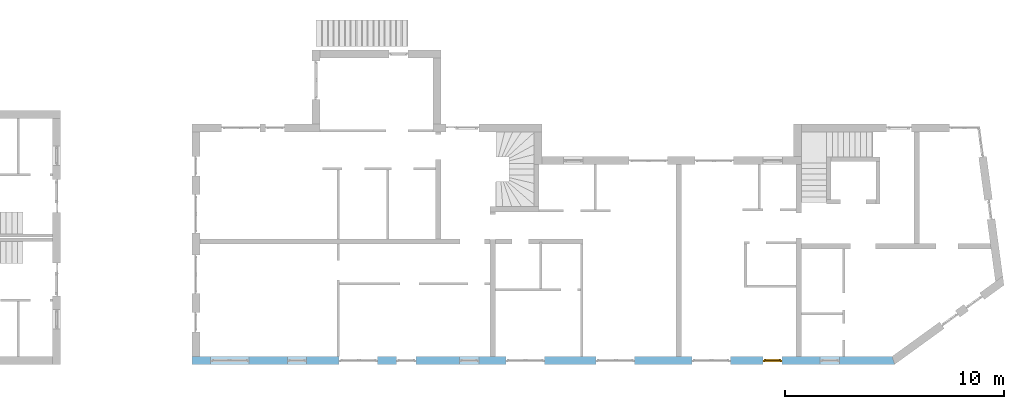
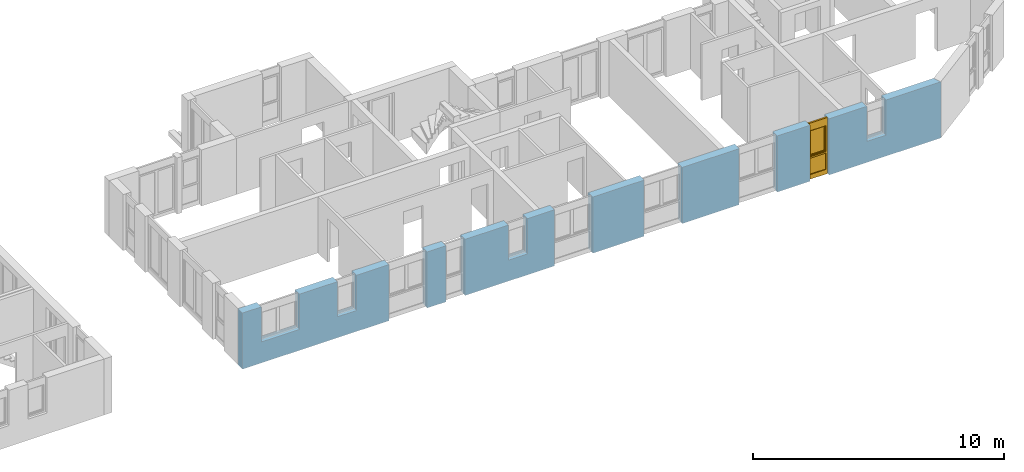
# One storey, part 23 of 41: 1 window, 10 openings, plus 1 element that does not belong to this part.
"""IFC2X3 building model written with IfcOpenShell, lengths in millimetres."""

from ifc_helpers import new_model, entity, si_unit, converted_unit, frame, frame_2d, origin, origin_with_axes, place, context, subcontext, project, spatial, polyline, rectangle, outline, extrude, faceted_brep, material, layer, layer_set, layer_usage, type_object, element, fill, save


model = new_model("IFC2X3")

# Units and contexts
model_context = context("Model", 3, precision=1e-05, world=origin())
body_context = subcontext(model_context, "Body", "Model", "MODEL_VIEW")
ifc_project = project(units=[si_unit("LENGTHUNIT", "METRE", prefix="MILLI"), converted_unit("PLANEANGLEUNIT", "DEGREE", entity("IfcPlaneAngleMeasure", 0.0174532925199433), si_unit("PLANEANGLEUNIT", "RADIAN"), dimensions=[0, 0, 0, 0, 0, 0, 0]), si_unit("AREAUNIT", "SQUARE_METRE"), si_unit("VOLUMEUNIT", "CUBIC_METRE")], contexts=[model_context])

# Building, storey
building_placement = place(None, origin())
building = spatial("IfcBuilding", under=ifc_project, at=building_placement, Name="Gebäude", CompositionType="ELEMENT")
storey_placement = place(building_placement, frame((0.0, 0.0, -200.0), z_axis=(0.0, 0.0, 1.0), x_axis=(1.0, 0.0, 0.0)))
storey = spatial("IfcBuildingStorey", under=building, at=storey_placement, Name="EG.- Grundriss", CompositionType="ELEMENT", Elevation=-200.0)

# Wall, openings, window
ifc_material_1 = material(Name="Poroton")
ifc_layer = layer(ifc_material_1, 365.0000000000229)
ifc_layer_set = layer_set([ifc_layer])
ifc_layer_usage = layer_usage(ifc_layer_set, "AXIS2", "POSITIVE", 0.0)
wall_placement = place(storey_placement, frame((148357.7928067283, 125274.8877324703, 0.0), z_axis=(0.0, 0.0, 1.0), x_axis=(1.0, -2.749268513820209e-11, 0.0)))
wall = element("IfcWallStandardCase", 1, at=wall_placement, inside=storey, material=ifc_layer_usage, Name="<Unnamed Element>", context=body_context, shape_type="SweptSolid", body=[
    extrude(outline(polyline([(0.0, 0.0), (32144.99999877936, 0.0), (32026.74038666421, 365.0000000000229), (-1.003483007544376e-08, 365.0), (0.0, 0.0)])), origin_with_axes(), (0.0, 0.0, 1.0), 2730.0),
])
opening_1_placement = place(wall_placement, frame((28740.29648749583, -1.103025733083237e-10, 1020.0), z_axis=(0.0, 1.0, 0.0), x_axis=(0.0, 0.0, 1.0)))
element("IfcOpeningElement", 2, at=opening_1_placement, cuts=wall, Name="Fensteröffnung", ObjectType="Opening", context=body_context, shape_type="SweptSolid", body=[
    extrude(rectangle(XDim=1710.0, YDim=885.0, at=frame_2d((855.0, 442.5), x_axis=(1.0, 0.0))), origin_with_axes(), (0.0, 0.0, 1.0), 365.0000000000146),
])
opening_2_placement = place(wall_placement, frame((26115.29648749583, -1.048456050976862e-10, 0.0), z_axis=(0.0, 1.0, 0.0), x_axis=(0.0, 0.0, 1.0)))
opening_2 = element("IfcOpeningElement", 3, at=opening_2_placement, cuts=wall, Name="Fensteröffnung", ObjectType="Opening", context=body_context, shape_type="SweptSolid", body=[
    extrude(rectangle(XDim=2730.0, YDim=885.0, at=frame_2d((1365.0, 442.5), x_axis=(1.0, 0.0))), origin_with_axes(), (0.0, 0.0, 1.0), 365.0000000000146),
])
opening_3_placement = place(wall_placement, frame((22865.29648749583, -7.937975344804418e-11, 0.0), z_axis=(0.0, 1.0, 0.0), x_axis=(0.0, 0.0, 1.0)))
element("IfcOpeningElement", 4, at=opening_3_placement, cuts=wall, Name="Fensteröffnung", ObjectType="Opening", context=body_context, shape_type="SweptSolid", body=[
    extrude(rectangle(XDim=2730.0, YDim=1760.0, at=frame_2d((1365.0, 880.0), x_axis=(1.0, 0.0))), origin_with_axes(), (0.0, 0.0, 1.0), 365.0000000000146),
])
opening_4_placement = place(wall_placement, frame((18490.51063065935, -4.984640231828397e-11, 0.0), z_axis=(0.0, 1.0, 0.0), x_axis=(0.0, 0.0, 1.0)))
element("IfcOpeningElement", 5, at=opening_4_placement, cuts=wall, Name="Fensteröffnung", ObjectType="Opening", context=body_context, shape_type="SweptSolid", body=[
    extrude(rectangle(XDim=2730.0, YDim=1760.0, at=frame_2d((1365.0, 880.0), x_axis=(1.0, 0.0))), origin_with_axes(), (0.0, 0.0, 1.0), 365.0000000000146),
])
opening_5_placement = place(wall_placement, frame((14365.26291871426, -7.302655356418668e-11, 0.0), z_axis=(0.0, 1.0, 0.0), x_axis=(0.0, 0.0, 1.0)))
element("IfcOpeningElement", 6, at=opening_5_placement, cuts=wall, Name="Fensteröffnung", ObjectType="Opening", context=body_context, shape_type="SweptSolid", body=[
    extrude(rectangle(XDim=2730.0, YDim=1760.0, at=frame_2d((1365.0, 880.0), x_axis=(1.0, 0.0))), origin_with_axes(), (0.0, 0.0, 1.0), 365.0000000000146),
])
opening_6_placement = place(wall_placement, frame((12240.0, -5.296897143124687e-11, 1020.0), z_axis=(0.0, 1.0, 0.0), x_axis=(0.0, 0.0, 1.0)))
element("IfcOpeningElement", 7, at=opening_6_placement, cuts=wall, Name="Fensteröffnung", ObjectType="Opening", context=body_context, shape_type="SweptSolid", body=[
    extrude(rectangle(XDim=1710.0, YDim=885.0, at=frame_2d((855.0, 442.5), x_axis=(1.0, 0.0))), origin_with_axes(), (0.0, 0.0, 1.0), 365.0000000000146),
])
opening_7_placement = place(wall_placement, frame((9365.0, -3.659806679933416e-11, 0.0), z_axis=(0.0, 1.0, 0.0), x_axis=(0.0, 0.0, 1.0)))
element("IfcOpeningElement", 8, at=opening_7_placement, cuts=wall, Name="Fensteröffnung", ObjectType="Opening", context=body_context, shape_type="SweptSolid", body=[
    extrude(rectangle(XDim=2730.0, YDim=885.0, at=frame_2d((1365.0, 442.5), x_axis=(1.0, 0.0))), origin_with_axes(), (0.0, 0.0, 1.0), 365.0000000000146),
])
opening_8_placement = place(wall_placement, frame((6740.0, -3.114109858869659e-11, 0.0), z_axis=(0.0, 1.0, 0.0), x_axis=(0.0, 0.0, 1.0)))
element("IfcOpeningElement", 9, at=opening_8_placement, cuts=wall, Name="Fensteröffnung", ObjectType="Opening", context=body_context, shape_type="SweptSolid", body=[
    extrude(rectangle(XDim=2730.0, YDim=1760.0, at=frame_2d((1365.0, 880.0), x_axis=(1.0, 0.0))), origin_with_axes(), (0.0, 0.0, 1.0), 365.0000000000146),
])
opening_9_placement = place(wall_placement, frame((4365.0, -7.494236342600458e-12, 1020.0), z_axis=(0.0, 1.0, 0.0), x_axis=(0.0, 0.0, 1.0)))
element("IfcOpeningElement", 10, at=opening_9_placement, cuts=wall, Name="Fensteröffnung", ObjectType="Opening", context=body_context, shape_type="SweptSolid", body=[
    extrude(rectangle(XDim=1710.0, YDim=885.0, at=frame_2d((855.0, 442.5), x_axis=(1.0, 0.0))), origin_with_axes(), (0.0, 0.0, 1.0), 365.0000000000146),
])
opening_10_placement = place(wall_placement, frame((865.0, -2.182787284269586e-13, 1020.0), z_axis=(0.0, 1.0, 0.0), x_axis=(0.0, 0.0, 1.0)))
element("IfcOpeningElement", 11, at=opening_10_placement, cuts=wall, Name="Fensteröffnung", ObjectType="Opening", context=body_context, shape_type="SweptSolid", body=[
    extrude(rectangle(XDim=1710.0, YDim=1760.0, at=frame_2d((854.9999999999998, 880.0), x_axis=(1.0, 0.0))), origin_with_axes(), (0.0, 0.0, 1.0), 365.0000000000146),
])
ifc_material_2 = material()
window_style = type_object("IfcWindowStyle", Name="Fenster", ConstructionType="NOTDEFINED", OperationType="USERDEFINED", ParameterTakesPrecedence=False, Sizeable=False)
window_placement = place(opening_2_placement, frame((0.0, 0.0, 0.0), z_axis=(1.0, 0.0, 0.0), x_axis=(0.0, 1.0, 0.0)))
window = element("IfcWindow", 12, at=window_placement, inside=storey, type_object=window_style, material=ifc_material_2, Name="Fenster", OverallHeight=2730.0, OverallWidth=885.0, context=body_context, shape_type="Brep", body=[
    faceted_brep([(-1.221113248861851e-08, 200.0000000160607, 2730.0), (-1.221113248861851e-08, 200.0000000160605, -2.449293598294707e-15), (69.99999998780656, 200.000000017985, -2.449293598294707e-15), (69.99999998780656, 200.0000000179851, 2730.0), (-1.001171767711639e-08, 119.9999999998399, 2.449293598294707e-15), (-1.00117176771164e-08, 119.9999999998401, 2730.0), (69.99999999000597, 120.0000000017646, 2730.0), (69.99999999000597, 120.0000000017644, 2.449293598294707e-15), (-1.221113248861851e-08, 200.0000000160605, -2.449293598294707e-15), (-1.221113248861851e-08, 200.0000000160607, 2730.0), (-1.00117176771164e-08, 119.9999999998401, 2730.0), (-1.001171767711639e-08, 119.9999999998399, 2.449293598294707e-15), (69.99999998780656, 200.000000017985, -2.449293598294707e-15), (-1.221113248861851e-08, 200.0000000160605, -2.449293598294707e-15), (-1.001171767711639e-08, 119.9999999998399, 2.449293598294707e-15), (69.99999999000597, 120.0000000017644, 2.449293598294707e-15), (69.99999998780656, 200.0000000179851, 2730.0), (69.99999998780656, 200.000000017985, -2.449293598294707e-15), (69.99999999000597, 120.0000000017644, 2.449293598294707e-15), (69.99999999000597, 120.0000000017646, 2730.0), (-1.221113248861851e-08, 200.0000000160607, 2730.0), (69.99999998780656, 200.0000000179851, 2730.0), (69.99999999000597, 120.0000000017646, 2730.0), (-1.00117176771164e-08, 119.9999999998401, 2730.0)], [[[0, 1, 2, 3]], [[4, 5, 6, 7]], [[8, 9, 10, 11]], [[12, 13, 14, 15]], [[16, 17, 18, 19]], [[20, 21, 22, 23]]], orient=[[False], [False], [False], [False], [False], [False]]),
    faceted_brep([(814.9999999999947, 200.0000000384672, 2730.0), (814.9999999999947, 200.000000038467, -2.449293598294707e-15), (885.0000000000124, 200.0000000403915, -2.449293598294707e-15), (885.0000000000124, 200.0000000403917, 2730.0), (815.000000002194, 120.0000000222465, 2.449293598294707e-15), (815.000000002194, 120.0000000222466, 2730.0), (885.0000000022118, 120.0000000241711, 2730.0), (885.0000000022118, 120.000000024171, 2.449293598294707e-15), (814.9999999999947, 200.000000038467, -2.449293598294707e-15), (814.9999999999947, 200.0000000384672, 2730.0), (815.000000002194, 120.0000000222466, 2730.0), (815.000000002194, 120.0000000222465, 2.449293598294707e-15), (885.0000000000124, 200.0000000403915, -2.449293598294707e-15), (814.9999999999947, 200.000000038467, -2.449293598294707e-15), (815.000000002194, 120.0000000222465, 2.449293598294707e-15), (885.0000000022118, 120.000000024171, 2.449293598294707e-15), (885.0000000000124, 200.0000000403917, 2730.0), (885.0000000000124, 200.0000000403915, -2.449293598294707e-15), (885.0000000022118, 120.000000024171, 2.449293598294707e-15), (885.0000000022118, 120.0000000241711, 2730.0), (814.9999999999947, 200.0000000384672, 2730.0), (885.0000000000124, 200.0000000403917, 2730.0), (885.0000000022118, 120.0000000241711, 2730.0), (815.000000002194, 120.0000000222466, 2730.0)], [[[0, 1, 2, 3]], [[4, 5, 6, 7]], [[8, 9, 10, 11]], [[12, 13, 14, 15]], [[16, 17, 18, 19]], [[20, 21, 22, 23]]], orient=[[False], [False], [False], [False], [False], [False]]),
    faceted_brep([(69.99999998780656, 200.000000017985, 220.0), (69.99999998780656, 200.000000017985, -2.449293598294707e-15), (814.9999999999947, 200.000000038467, -2.449293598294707e-15), (814.9999999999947, 200.000000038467, 220.0), (69.99999999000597, 120.0000000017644, 2.449293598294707e-15), (69.99999999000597, 120.0000000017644, 220.0), (815.000000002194, 120.0000000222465, 220.0), (815.000000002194, 120.0000000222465, 2.449293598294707e-15), (69.99999998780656, 200.000000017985, -2.449293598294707e-15), (69.99999998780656, 200.000000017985, 220.0), (69.99999999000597, 120.0000000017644, 220.0), (69.99999999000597, 120.0000000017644, 2.449293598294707e-15), (814.9999999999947, 200.000000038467, -2.449293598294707e-15), (69.99999998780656, 200.000000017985, -2.449293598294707e-15), (69.99999999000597, 120.0000000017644, 2.449293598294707e-15), (815.000000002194, 120.0000000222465, 2.449293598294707e-15), (814.9999999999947, 200.000000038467, 220.0), (814.9999999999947, 200.000000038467, -2.449293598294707e-15), (815.000000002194, 120.0000000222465, 2.449293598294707e-15), (815.000000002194, 120.0000000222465, 220.0), (69.99999998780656, 200.000000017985, 220.0), (814.9999999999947, 200.000000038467, 220.0), (815.000000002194, 120.0000000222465, 220.0), (69.99999999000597, 120.0000000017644, 220.0)], [[[0, 1, 2, 3]], [[4, 5, 6, 7]], [[8, 9, 10, 11]], [[12, 13, 14, 15]], [[16, 17, 18, 19]], [[20, 21, 22, 23]]], orient=[[False], [False], [False], [False], [False], [False]]),
    faceted_brep([(69.99999998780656, 200.0000000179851, 2730.0), (69.99999998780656, 200.0000000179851, 2360.0), (814.9999999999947, 200.0000000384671, 2360.0), (814.9999999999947, 200.0000000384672, 2730.0), (69.99999999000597, 120.0000000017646, 2360.0), (69.99999999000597, 120.0000000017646, 2730.0), (815.000000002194, 120.0000000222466, 2730.0), (815.000000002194, 120.0000000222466, 2360.0), (69.99999998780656, 200.0000000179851, 2360.0), (69.99999998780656, 200.0000000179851, 2730.0), (69.99999999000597, 120.0000000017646, 2730.0), (69.99999999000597, 120.0000000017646, 2360.0), (814.9999999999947, 200.0000000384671, 2360.0), (69.99999998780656, 200.0000000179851, 2360.0), (69.99999999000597, 120.0000000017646, 2360.0), (815.000000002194, 120.0000000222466, 2360.0), (814.9999999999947, 200.0000000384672, 2730.0), (814.9999999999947, 200.0000000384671, 2360.0), (815.000000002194, 120.0000000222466, 2360.0), (815.000000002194, 120.0000000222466, 2730.0), (69.99999998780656, 200.0000000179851, 2730.0), (814.9999999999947, 200.0000000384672, 2730.0), (815.000000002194, 120.0000000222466, 2730.0), (69.99999999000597, 120.0000000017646, 2730.0)], [[[0, 1, 2, 3]], [[4, 5, 6, 7]], [[8, 9, 10, 11]], [[12, 13, 14, 15]], [[16, 17, 18, 19]], [[20, 21, 22, 23]]], orient=[[False], [False], [False], [False], [False], [False]]),
    faceted_brep([(69.99999998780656, 200.000000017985, 1090.0), (69.99999998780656, 200.000000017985, 1020.0), (814.9999999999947, 200.0000000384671, 1020.0), (814.9999999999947, 200.0000000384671, 1090.0), (69.99999999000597, 120.0000000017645, 1020.0), (69.99999999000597, 120.0000000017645, 1090.0), (815.000000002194, 120.0000000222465, 1090.0), (815.000000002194, 120.0000000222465, 1020.0), (69.99999998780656, 200.000000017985, 1020.0), (69.99999998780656, 200.000000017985, 1090.0), (69.99999999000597, 120.0000000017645, 1090.0), (69.99999999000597, 120.0000000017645, 1020.0), (814.9999999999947, 200.0000000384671, 1020.0), (69.99999998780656, 200.000000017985, 1020.0), (69.99999999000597, 120.0000000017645, 1020.0), (815.000000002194, 120.0000000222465, 1020.0), (814.9999999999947, 200.0000000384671, 1090.0), (814.9999999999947, 200.0000000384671, 1020.0), (815.000000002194, 120.0000000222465, 1020.0), (815.000000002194, 120.0000000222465, 1090.0), (69.99999998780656, 200.000000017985, 1090.0), (814.9999999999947, 200.0000000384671, 1090.0), (815.000000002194, 120.0000000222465, 1090.0), (69.99999999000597, 120.0000000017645, 1090.0)], [[[0, 1, 2, 3]], [[4, 5, 6, 7]], [[8, 9, 10, 11]], [[12, 13, 14, 15]], [[16, 17, 18, 19]], [[20, 21, 22, 23]]], orient=[[False], [False], [False], [False], [False], [False]]),
    faceted_brep([(69.99999998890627, 160.0000000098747, 220.0), (815.0000000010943, 160.0000000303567, 220.0), (815.0000000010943, 160.0000000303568, 1020.0), (69.99999998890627, 160.0000000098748, 1020.0), (69.99999998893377, 159.0000000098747, 220.0), (69.99999998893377, 159.0000000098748, 1020.0), (815.0000000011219, 159.0000000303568, 1020.0), (815.0000000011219, 159.0000000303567, 220.0), (69.99999998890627, 160.0000000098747, 220.0), (69.99999998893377, 159.0000000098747, 220.0), (815.0000000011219, 159.0000000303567, 220.0), (815.0000000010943, 160.0000000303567, 220.0), (815.0000000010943, 160.0000000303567, 220.0), (815.0000000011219, 159.0000000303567, 220.0), (815.0000000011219, 159.0000000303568, 1020.0), (815.0000000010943, 160.0000000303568, 1020.0), (815.0000000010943, 160.0000000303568, 1020.0), (815.0000000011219, 159.0000000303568, 1020.0), (69.99999998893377, 159.0000000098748, 1020.0), (69.99999998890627, 160.0000000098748, 1020.0), (69.99999998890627, 160.0000000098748, 1020.0), (69.99999998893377, 159.0000000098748, 1020.0), (69.99999998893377, 159.0000000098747, 220.0), (69.99999998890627, 160.0000000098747, 220.0)], [[[0, 1, 2, 3]], [[4, 5, 6, 7]], [[8, 9, 10, 11]], [[12, 13, 14, 15]], [[16, 17, 18, 19]], [[20, 21, 22, 23]]], orient=[[False], [False], [False], [False], [False], [False]]),
    faceted_brep([(49.9999999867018, 240.0000000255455, 2380.0), (49.9999999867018, 240.0000000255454, 1070.0), (119.9999999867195, 240.0000000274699, 1070.0), (119.9999999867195, 240.00000002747, 2380.0), (49.99999998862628, 170.0000000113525, 1070.0), (49.99999998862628, 170.0000000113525, 2380.0), (119.999999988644, 170.000000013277, 2380.0), (119.999999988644, 170.000000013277, 1070.0), (49.9999999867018, 240.0000000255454, 1070.0), (49.9999999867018, 240.0000000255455, 2380.0), (49.99999998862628, 170.0000000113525, 2380.0), (49.99999998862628, 170.0000000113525, 1070.0), (119.9999999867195, 240.0000000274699, 1070.0), (49.9999999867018, 240.0000000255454, 1070.0), (49.99999998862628, 170.0000000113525, 1070.0), (119.999999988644, 170.000000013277, 1070.0), (119.9999999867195, 240.00000002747, 2380.0), (119.9999999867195, 240.0000000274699, 1070.0), (119.999999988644, 170.000000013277, 1070.0), (119.999999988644, 170.000000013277, 2380.0), (49.9999999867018, 240.0000000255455, 2380.0), (119.9999999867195, 240.00000002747, 2380.0), (119.999999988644, 170.000000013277, 2380.0), (49.99999998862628, 170.0000000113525, 2380.0)], [[[0, 1, 2, 3]], [[4, 5, 6, 7]], [[8, 9, 10, 11]], [[12, 13, 14, 15]], [[16, 17, 18, 19]], [[20, 21, 22, 23]]], orient=[[False], [False], [False], [False], [False], [False]]),
    faceted_brep([(764.9999999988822, 240.0000000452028, 2380.0), (764.9999999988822, 240.0000000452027, 1070.0), (834.9999999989, 240.0000000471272, 1070.0), (834.9999999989, 240.0000000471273, 2380.0), (765.0000000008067, 170.0000000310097, 1070.0), (765.0000000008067, 170.0000000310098, 2380.0), (835.0000000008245, 170.0000000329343, 2380.0), (835.0000000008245, 170.0000000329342, 1070.0), (764.9999999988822, 240.0000000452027, 1070.0), (764.9999999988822, 240.0000000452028, 2380.0), (765.0000000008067, 170.0000000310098, 2380.0), (765.0000000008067, 170.0000000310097, 1070.0), (834.9999999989, 240.0000000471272, 1070.0), (764.9999999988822, 240.0000000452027, 1070.0), (765.0000000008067, 170.0000000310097, 1070.0), (835.0000000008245, 170.0000000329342, 1070.0), (834.9999999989, 240.0000000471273, 2380.0), (834.9999999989, 240.0000000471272, 1070.0), (835.0000000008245, 170.0000000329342, 1070.0), (835.0000000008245, 170.0000000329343, 2380.0), (764.9999999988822, 240.0000000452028, 2380.0), (834.9999999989, 240.0000000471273, 2380.0), (835.0000000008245, 170.0000000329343, 2380.0), (765.0000000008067, 170.0000000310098, 2380.0)], [[[0, 1, 2, 3]], [[4, 5, 6, 7]], [[8, 9, 10, 11]], [[12, 13, 14, 15]], [[16, 17, 18, 19]], [[20, 21, 22, 23]]], orient=[[False], [False], [False], [False], [False], [False]]),
    faceted_brep([(119.9999999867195, 240.0000000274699, 1140.0), (119.9999999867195, 240.0000000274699, 1070.0), (764.9999999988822, 240.0000000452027, 1070.0), (764.9999999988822, 240.0000000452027, 1140.0), (119.999999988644, 170.000000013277, 1070.0), (119.999999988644, 170.000000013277, 1140.0), (765.0000000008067, 170.0000000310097, 1140.0), (765.0000000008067, 170.0000000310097, 1070.0), (119.9999999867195, 240.0000000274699, 1070.0), (119.9999999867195, 240.0000000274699, 1140.0), (119.999999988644, 170.000000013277, 1140.0), (119.999999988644, 170.000000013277, 1070.0), (764.9999999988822, 240.0000000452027, 1070.0), (119.9999999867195, 240.0000000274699, 1070.0), (119.999999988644, 170.000000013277, 1070.0), (765.0000000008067, 170.0000000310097, 1070.0), (764.9999999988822, 240.0000000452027, 1140.0), (764.9999999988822, 240.0000000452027, 1070.0), (765.0000000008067, 170.0000000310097, 1070.0), (765.0000000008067, 170.0000000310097, 1140.0), (119.9999999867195, 240.0000000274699, 1140.0), (764.9999999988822, 240.0000000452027, 1140.0), (765.0000000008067, 170.0000000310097, 1140.0), (119.999999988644, 170.000000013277, 1140.0)], [[[0, 1, 2, 3]], [[4, 5, 6, 7]], [[8, 9, 10, 11]], [[12, 13, 14, 15]], [[16, 17, 18, 19]], [[20, 21, 22, 23]]], orient=[[False], [False], [False], [False], [False], [False]]),
    faceted_brep([(119.9999999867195, 240.00000002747, 2380.0), (119.9999999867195, 240.00000002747, 2310.0), (764.9999999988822, 240.0000000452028, 2310.0), (764.9999999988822, 240.0000000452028, 2380.0), (119.999999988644, 170.000000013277, 2310.0), (119.999999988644, 170.000000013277, 2380.0), (765.0000000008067, 170.0000000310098, 2380.0), (765.0000000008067, 170.0000000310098, 2310.0), (119.9999999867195, 240.00000002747, 2310.0), (119.9999999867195, 240.00000002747, 2380.0), (119.999999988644, 170.000000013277, 2380.0), (119.999999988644, 170.000000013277, 2310.0), (764.9999999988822, 240.0000000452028, 2310.0), (119.9999999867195, 240.00000002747, 2310.0), (119.999999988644, 170.000000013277, 2310.0), (765.0000000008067, 170.0000000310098, 2310.0), (764.9999999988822, 240.0000000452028, 2380.0), (764.9999999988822, 240.0000000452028, 2310.0), (765.0000000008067, 170.0000000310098, 2310.0), (765.0000000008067, 170.0000000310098, 2380.0), (119.9999999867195, 240.00000002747, 2380.0), (764.9999999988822, 240.0000000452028, 2380.0), (765.0000000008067, 170.0000000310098, 2380.0), (119.999999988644, 170.000000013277, 2380.0)], [[[0, 1, 2, 3]], [[4, 5, 6, 7]], [[8, 9, 10, 11]], [[12, 13, 14, 15]], [[16, 17, 18, 19]], [[20, 21, 22, 23]]], orient=[[False], [False], [False], [False], [False], [False]]),
    faceted_brep([(119.9999999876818, 205.0000000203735, 1140.0), (764.9999999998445, 205.0000000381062, 1140.0), (764.9999999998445, 205.0000000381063, 2310.0), (119.9999999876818, 205.0000000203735, 2310.0), (119.9999999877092, 204.0000000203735, 1140.0), (119.9999999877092, 204.0000000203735, 2310.0), (764.999999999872, 204.0000000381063, 2310.0), (764.999999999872, 204.0000000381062, 1140.0), (119.9999999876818, 205.0000000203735, 1140.0), (119.9999999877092, 204.0000000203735, 1140.0), (764.999999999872, 204.0000000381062, 1140.0), (764.9999999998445, 205.0000000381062, 1140.0), (764.9999999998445, 205.0000000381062, 1140.0), (764.999999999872, 204.0000000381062, 1140.0), (764.999999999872, 204.0000000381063, 2310.0), (764.9999999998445, 205.0000000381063, 2310.0), (764.9999999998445, 205.0000000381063, 2310.0), (764.999999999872, 204.0000000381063, 2310.0), (119.9999999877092, 204.0000000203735, 2310.0), (119.9999999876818, 205.0000000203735, 2310.0), (119.9999999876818, 205.0000000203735, 2310.0), (119.9999999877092, 204.0000000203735, 2310.0), (119.9999999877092, 204.0000000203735, 1140.0), (119.9999999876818, 205.0000000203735, 1140.0)], [[[0, 1, 2, 3]], [[4, 5, 6, 7]], [[8, 9, 10, 11]], [[12, 13, 14, 15]], [[16, 17, 18, 19]], [[20, 21, 22, 23]]], orient=[[False], [False], [False], [False], [False], [False]]),
])
fill(opening_2, window)

save(model, "model.ifc")
